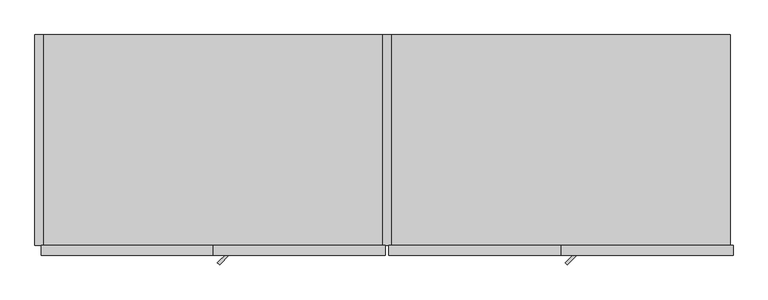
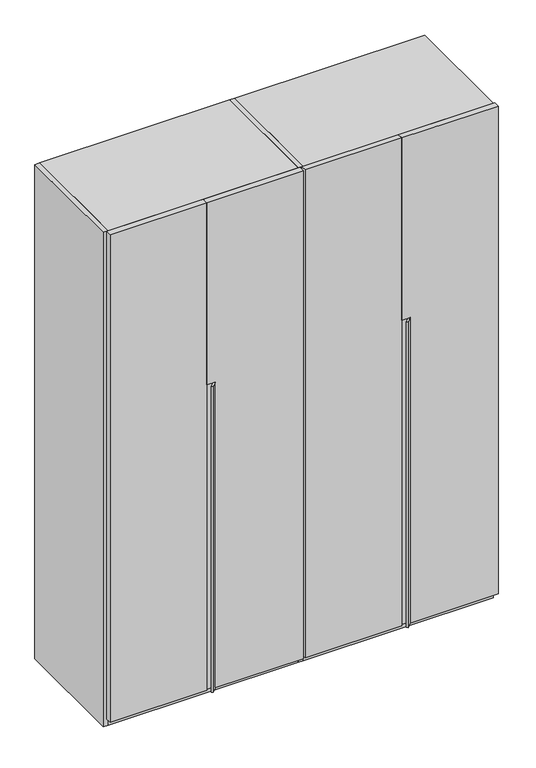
"""IFC4 building model written with IfcOpenShell, lengths in millimetres: furniture geometry, T70 - 100%- ARMADIO UNDERLINE L2923  : T70 - 100%- ARMADIO UNDERLINE L2923 ."""

from ifc_helpers import new_model, si_unit, frame, origin, origin_with_axes, place, context, project, spatial, polyline, outline, extrude, faceted_brep, source, transform, mapped, element, save


def furniture_89622b55(model_context):
    return source(origin(), model_context, "Body", "SolidModel", [
        faceted_brep([(1685.5, -321.0, 2589.0), (1685.5, -293.0, 2589.0), (1207.5, -293.0, 2589.0), (1207.5, -321.0, 2589.0), (1247.5, -321.0, 1634.0), (1207.5, -321.0, 1634.0), (1207.5, -313.0, 1634.0), (1247.5, -313.0, 1634.0), (1207.5, -293.0, 34.0), (1207.5, -313.0, 34.0), (1247.5, -321.0, 34.0), (1685.5, -321.0, 34.0), (1685.5, -293.0, 34.0), (1247.5, -313.0, 34.0)], [[[0, 1, 2, 3]], [[4, 5, 6, 7]], [[3, 2, 8, 9, 6, 5]], [[0, 3, 5, 4, 10, 11]], [[12, 11, 10, 13, 9, 8]], [[2, 1, 12, 8]], [[9, 13, 7, 6]], [[13, 10, 4, 7]], [[1, 0, 11, 12]]]),
        extrude(outline(polyline([(1219.2157288, -341.2842712), (1247.5, -313.0), (1250.8137085, -321.0), (1224.872583, -346.9411255), (1219.2157288, -341.2842712)])), frame((0.0, 0.0, 34.0), z_axis=(0.0, 0.0, 1.0), x_axis=(1.0, 0.0, 0.0)), (0.0, 0.0, 1.0), 1600.0),
        extrude(outline(polyline([(1207.5, -321.0), (729.5, -321.0), (729.5, -293.0), (1207.5, -293.0), (1207.5, -321.0)])), frame((0.0, 0.0, 34.0), z_axis=(0.0, 0.0, 1.0), x_axis=(1.0, 0.0, 0.0)), (0.0, 0.0, 1.0), 2555.0),
        faceted_brep([(719.5, -321.0, 2589.0), (719.5, -293.0, 2589.0), (241.5, -293.0, 2589.0), (241.5, -321.0, 2589.0), (281.5, -321.0, 1634.0), (241.5, -321.0, 1634.0), (241.5, -313.0, 1634.0), (281.5, -313.0, 1634.0), (241.5, -293.0, 34.0), (241.5, -313.0, 34.0), (281.5, -321.0, 34.0), (719.5, -321.0, 34.0), (719.5, -293.0, 34.0), (281.5, -313.0, 34.0)], [[[0, 1, 2, 3]], [[4, 5, 6, 7]], [[3, 2, 8, 9, 6, 5]], [[0, 3, 5, 4, 10, 11]], [[12, 11, 10, 13, 9, 8]], [[2, 1, 12, 8]], [[9, 13, 7, 6]], [[13, 10, 4, 7]], [[1, 0, 11, 12]]]),
        extrude(outline(polyline([(253.2157288, -341.2842712), (281.5, -313.0), (284.8137085, -321.0), (258.872583, -346.9411255), (253.2157288, -341.2842712)])), frame((0.0, 0.0, 34.0), z_axis=(0.0, 0.0, 1.0), x_axis=(1.0, 0.0, 0.0)), (0.0, 0.0, 1.0), 1600.0),
        extrude(outline(polyline([(241.5, -321.0), (-236.5, -321.0), (-236.5, -293.0), (241.5, -293.0), (241.5, -321.0)])), frame((0.0, 0.0, 34.0), z_axis=(0.0, 0.0, 1.0), x_axis=(1.0, 0.0, 0.0)), (0.0, 0.0, 1.0), 2555.0),
        extrude(outline(polyline([(1678.0, -293.0), (737.0, -293.0), (737.0, -268.0), (1678.0, -268.0), (1678.0, -293.0)])), origin_with_axes(), (0.0, 0.0, 1.0), 40.0),
        extrude(outline(polyline([(1678.0, 283.0), (1678.0, 275.0), (737.0, 275.0), (737.0, 283.0), (1678.0, 283.0)])), frame((0.0, 0.0, 65.0), z_axis=(0.0, 0.0, 1.0), x_axis=(1.0, 0.0, 0.0)), (0.0, 0.0, 1.0), 2499.0),
        extrude(outline(polyline([(1678.0, 293.0), (1678.0, -293.0), (737.0, -293.0), (737.0, 293.0), (1678.0, 293.0)])), frame((0.0, 0.0, 40.0), z_axis=(0.0, 0.0, 1.0), x_axis=(1.0, 0.0, 0.0)), (0.0, 0.0, 1.0), 25.0),
        extrude(outline(polyline([(1678.0, 293.0), (1678.0, -293.0), (737.0, -293.0), (737.0, 293.0), (1678.0, 293.0)])), frame((0.0, 0.0, 2564.0), z_axis=(0.0, 0.0, 1.0), x_axis=(1.0, 0.0, 0.0)), (0.0, 0.0, 1.0), 25.0),
        extrude(outline(polyline([(737.0, 293.0), (737.0, -293.0), (712.0, -293.0), (712.0, 293.0), (737.0, 293.0)])), origin_with_axes(), (0.0, 0.0, 1.0), 2589.0),
        extrude(outline(polyline([(712.0, -293.0), (-229.0, -293.0), (-229.0, -268.0), (712.0, -268.0), (712.0, -293.0)])), origin_with_axes(), (0.0, 0.0, 1.0), 40.0),
        extrude(outline(polyline([(712.0, 283.0), (712.0, 275.0), (-229.0, 275.0), (-229.0, 283.0), (712.0, 283.0)])), frame((0.0, 0.0, 65.0), z_axis=(0.0, 0.0, 1.0), x_axis=(1.0, 0.0, 0.0)), (0.0, 0.0, 1.0), 2499.0),
        extrude(outline(polyline([(712.0, 293.0), (712.0, -293.0), (-229.0, -293.0), (-229.0, 293.0), (712.0, 293.0)])), frame((0.0, 0.0, 40.0), z_axis=(0.0, 0.0, 1.0), x_axis=(1.0, 0.0, 0.0)), (0.0, 0.0, 1.0), 25.0),
        extrude(outline(polyline([(712.0, 293.0), (712.0, -293.0), (-229.0, -293.0), (-229.0, 293.0), (712.0, 293.0)])), frame((0.0, 0.0, 2564.0), z_axis=(0.0, 0.0, 1.0), x_axis=(1.0, 0.0, 0.0)), (0.0, 0.0, 1.0), 25.0),
        extrude(outline(polyline([(-229.0, 293.0), (-229.0, -293.0), (-254.0, -293.0), (-254.0, 293.0), (-229.0, 293.0)])), origin_with_axes(), (0.0, 0.0, 1.0), 2589.0),
    ])


if __name__ == "__main__":
    model = new_model("IFC4")
    model_context = context("Model", 3, world=origin())
    ifc_project = project(units=[si_unit("LENGTHUNIT", "METRE", prefix="MILLI")], contexts=[model_context])
    site = spatial("IfcSite", under=ifc_project)
    building = spatial("IfcBuilding", under=site)
    placement = place(None, origin())
    furniture_shape = furniture_89622b55(model_context)
    element("IfcFurniture", 1, ObjectType="T70 - 100%- ARMADIO UNDERLINE L2923  : T70 - 100%- ARMADIO UNDERLINE L2923 ", at=placement, inside=building, context=model_context, shape_type="MappedRepresentation", body=[
        mapped(furniture_shape, transform((0.0, 0.0, 0.0), x_axis=(1.0, 0.0, 0.0), y_axis=(0.0, 1.0, 0.0), z_axis=(0.0, 0.0, 1.0))),
    ])
    save(model, "model.ifc")
